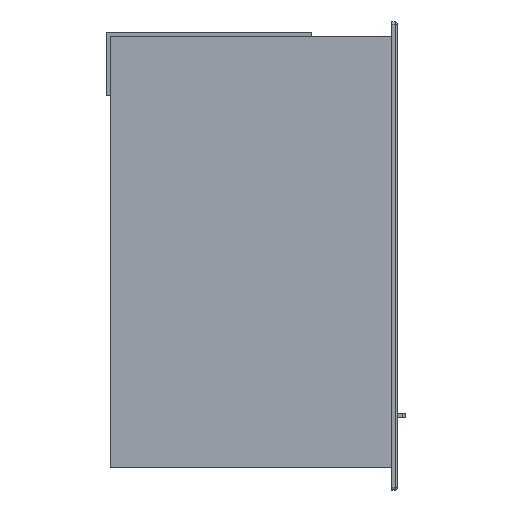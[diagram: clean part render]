
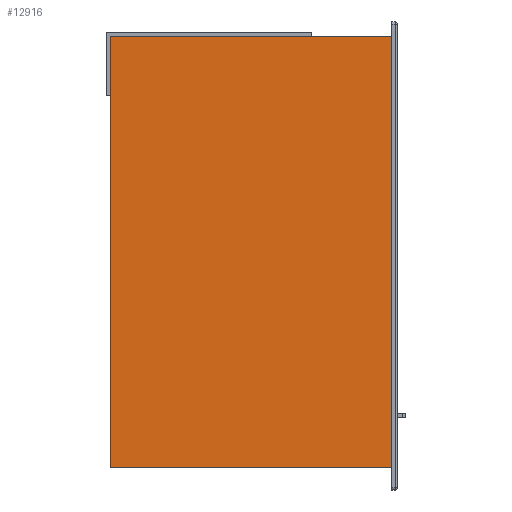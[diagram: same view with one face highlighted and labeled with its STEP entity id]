
A CAD part, left-side view. The second image highlights one B-rep face of the part: STEP entity #12916.
In plain terms, the highlighted planar face has unit normal (-1, 0, 0).
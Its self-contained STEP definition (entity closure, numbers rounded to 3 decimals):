
#1062=LINE('',#22920,#2093);
#1086=LINE('',#23544,#2117);
#1137=LINE('',#23657,#2168);
#1155=LINE('',#23697,#2186);
#2093=VECTOR('',#16171,1000.);
#2117=VECTOR('',#16209,1000.);
#2168=VECTOR('',#16284,1000.);
#2186=VECTOR('',#16314,1000.);
#2733=PLANE('',#13985);
#5489=ORIENTED_EDGE('',*,*,#8229,.T.);
#5490=ORIENTED_EDGE('',*,*,#8102,.T.);
#5491=ORIENTED_EDGE('',*,*,#8302,.F.);
#5492=ORIENTED_EDGE('',*,*,#8280,.F.);
#8102=EDGE_CURVE('',#9664,#9663,#1062,.T.);
#8229=EDGE_CURVE('',#9789,#9664,#1086,.T.);
#8280=EDGE_CURVE('',#9789,#9839,#1137,.T.);
#8302=EDGE_CURVE('',#9839,#9663,#1155,.T.);
#9663=VERTEX_POINT('',#22919);
#9664=VERTEX_POINT('',#22921);
#9789=VERTEX_POINT('',#23545);
#9839=VERTEX_POINT('',#23658);
#11222=EDGE_LOOP('',(#5489,#5490,#5491,#5492));
#12114=FACE_BOUND('',#11222,.T.);
#12916=ADVANCED_FACE('',(#12114),#2733,.F.);
#13985=AXIS2_PLACEMENT_3D('',#23704,#16319,#16320);
#16171=DIRECTION('',(0.,0.,-1.));
#16209=DIRECTION('',(0.,1.,0.));
#16284=DIRECTION('',(0.,0.,-1.));
#16314=DIRECTION('',(0.,1.,0.));
#16319=DIRECTION('',(1.,0.,0.));
#16320=DIRECTION('',(0.,0.,-1.));
#22919=CARTESIAN_POINT('',(-367.,-100.,0.));
#22920=CARTESIAN_POINT('',(-367.,-100.,534.));
#22921=CARTESIAN_POINT('',(-367.,-100.,534.));
#23544=CARTESIAN_POINT('',(-367.,-448.5,534.));
#23545=CARTESIAN_POINT('',(-367.,-448.5,534.));
#23657=CARTESIAN_POINT('',(-367.,-448.5,534.));
#23658=CARTESIAN_POINT('',(-367.,-448.5,0.));
#23697=CARTESIAN_POINT('',(-367.,-448.5,0.));
#23704=CARTESIAN_POINT('',(-367.,-448.5,534.));
